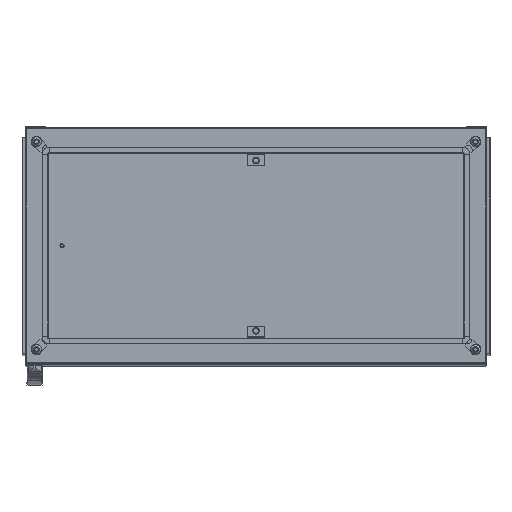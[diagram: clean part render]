
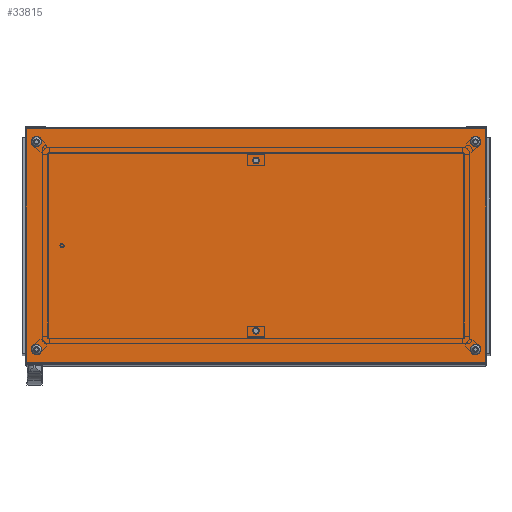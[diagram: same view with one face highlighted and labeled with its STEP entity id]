
A CAD part, top view. The second image highlights one B-rep face of the part: STEP entity #33815.
In plain terms, the highlighted planar face has unit normal (0, 0, 1).
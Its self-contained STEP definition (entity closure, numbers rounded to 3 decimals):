
#1580=CIRCLE('',#36229,7.321);
#1581=CIRCLE('',#36230,7.321);
#1582=CIRCLE('',#36231,6.);
#1583=CIRCLE('',#36232,6.);
#1584=CIRCLE('',#36233,6.);
#1585=CIRCLE('',#36234,6.);
#5785=ORIENTED_EDGE('',*,*,#14111,.F.);
#5786=ORIENTED_EDGE('',*,*,#14112,.F.);
#5787=ORIENTED_EDGE('',*,*,#14113,.F.);
#5788=ORIENTED_EDGE('',*,*,#14114,.F.);
#5789=ORIENTED_EDGE('',*,*,#14115,.F.);
#5790=ORIENTED_EDGE('',*,*,#14116,.F.);
#5791=ORIENTED_EDGE('',*,*,#14100,.T.);
#5792=ORIENTED_EDGE('',*,*,#14108,.T.);
#5793=ORIENTED_EDGE('',*,*,#14071,.F.);
#5794=ORIENTED_EDGE('',*,*,#14117,.F.);
#14071=EDGE_CURVE('',#18469,#18470,#21856,.T.);
#14100=EDGE_CURVE('',#18491,#18490,#21862,.T.);
#14108=EDGE_CURVE('',#18490,#18470,#21867,.T.);
#14111=EDGE_CURVE('',#18492,#18492,#1580,.T.);
#14112=EDGE_CURVE('',#18493,#18493,#1581,.T.);
#14113=EDGE_CURVE('',#18494,#18494,#1582,.T.);
#14114=EDGE_CURVE('',#18495,#18495,#1583,.T.);
#14115=EDGE_CURVE('',#18496,#18496,#1584,.T.);
#14116=EDGE_CURVE('',#18497,#18497,#1585,.T.);
#14117=EDGE_CURVE('',#18491,#18469,#21870,.T.);
#18469=VERTEX_POINT('',#52399);
#18470=VERTEX_POINT('',#52401);
#18490=VERTEX_POINT('',#52475);
#18491=VERTEX_POINT('',#52477);
#18492=VERTEX_POINT('',#52494);
#18493=VERTEX_POINT('',#52496);
#18494=VERTEX_POINT('',#52498);
#18495=VERTEX_POINT('',#52500);
#18496=VERTEX_POINT('',#52502);
#18497=VERTEX_POINT('',#52504);
#21856=LINE('',#52400,#24769);
#21862=LINE('',#52476,#24775);
#21867=LINE('',#52488,#24780);
#21870=LINE('',#52505,#24783);
#24769=VECTOR('',#41865,1000.);
#24775=VECTOR('',#41919,1000.);
#24780=VECTOR('',#41936,1000.);
#24783=VECTOR('',#41955,1000.);
#27352=EDGE_LOOP('',(#5785));
#27353=EDGE_LOOP('',(#5786));
#27354=EDGE_LOOP('',(#5787));
#27355=EDGE_LOOP('',(#5788));
#27356=EDGE_LOOP('',(#5789));
#27357=EDGE_LOOP('',(#5790));
#27358=EDGE_LOOP('',(#5791,#5792,#5793,#5794));
#30206=FACE_BOUND('',#27352,.T.);
#30207=FACE_BOUND('',#27353,.T.);
#30208=FACE_BOUND('',#27354,.T.);
#30209=FACE_BOUND('',#27355,.T.);
#30210=FACE_BOUND('',#27356,.T.);
#30211=FACE_BOUND('',#27357,.T.);
#30212=FACE_BOUND('',#27358,.T.);
#32713=PLANE('',#36228);
#33815=ADVANCED_FACE('',(#30206,#30207,#30208,#30209,#30210,#30211,#30212),
#32713,.T.);
#36228=AXIS2_PLACEMENT_3D('',#52492,#41941,#41942);
#36229=AXIS2_PLACEMENT_3D('',#52493,#41943,#41944);
#36230=AXIS2_PLACEMENT_3D('',#52495,#41945,#41946);
#36231=AXIS2_PLACEMENT_3D('',#52497,#41947,#41948);
#36232=AXIS2_PLACEMENT_3D('',#52499,#41949,#41950);
#36233=AXIS2_PLACEMENT_3D('',#52501,#41951,#41952);
#36234=AXIS2_PLACEMENT_3D('',#52503,#41953,#41954);
#41865=DIRECTION('',(-1.,0.,0.));
#41919=DIRECTION('',(-1.,0.,0.));
#41936=DIRECTION('',(0.,-1.,0.));
#41941=DIRECTION('',(0.,0.,1.));
#41942=DIRECTION('',(1.,0.,0.));
#41943=DIRECTION('',(0.,0.,1.));
#41944=DIRECTION('',(1.,0.,0.));
#41945=DIRECTION('',(0.,0.,1.));
#41946=DIRECTION('',(1.,0.,0.));
#41947=DIRECTION('',(0.,0.,1.));
#41948=DIRECTION('',(1.,0.,0.));
#41949=DIRECTION('',(0.,0.,1.));
#41950=DIRECTION('',(1.,0.,0.));
#41951=DIRECTION('',(0.,0.,1.));
#41952=DIRECTION('',(1.,0.,0.));
#41953=DIRECTION('',(0.,0.,1.));
#41954=DIRECTION('',(1.,0.,0.));
#41955=DIRECTION('',(0.,-1.,0.));
#52399=CARTESIAN_POINT('',(496.5,-252.5,20.));
#52400=CARTESIAN_POINT('',(500.,-252.5,20.));
#52401=CARTESIAN_POINT('',(-496.5,-252.5,20.));
#52475=CARTESIAN_POINT('',(-496.5,252.5,20.));
#52476=CARTESIAN_POINT('',(500.,252.5,20.));
#52477=CARTESIAN_POINT('',(496.5,252.5,20.));
#52488=CARTESIAN_POINT('',(-496.5,255.5,20.));
#52492=CARTESIAN_POINT('',(-496.5,-252.5,20.));
#52493=CARTESIAN_POINT('',(0.,-184.,20.));
#52494=CARTESIAN_POINT('',(7.321,-184.,20.));
#52495=CARTESIAN_POINT('',(0.,184.,20.));
#52496=CARTESIAN_POINT('',(7.321,184.,20.));
#52497=CARTESIAN_POINT('',(474.5,-224.5,20.));
#52498=CARTESIAN_POINT('',(480.5,-224.5,20.));
#52499=CARTESIAN_POINT('',(-474.5,224.5,20.));
#52500=CARTESIAN_POINT('',(-468.5,224.5,20.));
#52501=CARTESIAN_POINT('',(474.5,224.5,20.));
#52502=CARTESIAN_POINT('',(480.5,224.5,20.));
#52503=CARTESIAN_POINT('',(-474.5,-224.5,20.));
#52504=CARTESIAN_POINT('',(-468.5,-224.5,20.));
#52505=CARTESIAN_POINT('',(496.5,255.5,20.));
